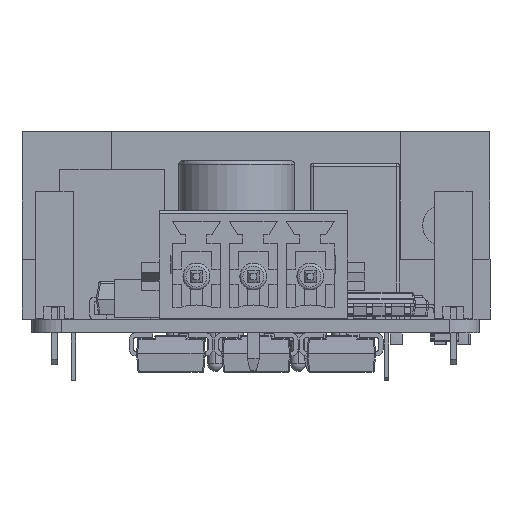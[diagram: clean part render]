
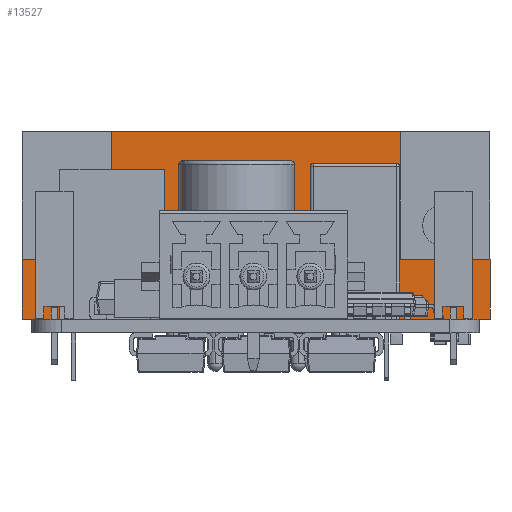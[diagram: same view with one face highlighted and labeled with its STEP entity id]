
A CAD part, left-side view. The second image highlights one B-rep face of the part: STEP entity #13527.
In plain terms, the highlighted planar face has unit normal (-1, 0, 0).
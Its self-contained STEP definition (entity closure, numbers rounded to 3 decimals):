
#12981 = VERTEX_POINT('',#12982);
#12982 = CARTESIAN_POINT('',(83.317,44.155,
    0.));
#12999 = VERTEX_POINT('',#13000);
#13000 = CARTESIAN_POINT('',(83.317,12.841,
    0.));
#13006 = EDGE_CURVE('',#12981,#12999,#13007,.T.);
#13007 = LINE('',#13008,#13009);
#13008 = CARTESIAN_POINT('',(83.317,44.155,
    0.));
#13009 = VECTOR('',#13010,1.);
#13010 = DIRECTION('',(0.,-1.,0.));
#13453 = EDGE_CURVE('',#13454,#12981,#13456,.T.);
#13454 = VERTEX_POINT('',#13455);
#13455 = CARTESIAN_POINT('',(83.317,44.155,
    4.));
#13456 = LINE('',#13457,#13458);
#13457 = CARTESIAN_POINT('',(83.317,44.155,
    12.55));
#13458 = VECTOR('',#13459,1.);
#13459 = DIRECTION('',(0.,0.,-1.));
#13484 = VERTEX_POINT('',#13485);
#13485 = CARTESIAN_POINT('',(83.317,38.155,
    12.55));
#13491 = EDGE_CURVE('',#13492,#13484,#13494,.T.);
#13492 = VERTEX_POINT('',#13493);
#13493 = CARTESIAN_POINT('',(83.317,18.841,
    12.55));
#13494 = LINE('',#13495,#13496);
#13495 = CARTESIAN_POINT('',(83.317,44.155,
    12.55));
#13496 = VECTOR('',#13497,1.);
#13497 = DIRECTION('',(0.,1.,0.));
#13527 = ADVANCED_FACE('',(#13528),#13569,.T.);
#13528 = FACE_BOUND('',#13529,.T.);
#13529 = EDGE_LOOP('',(#13530,#13531,#13539,#13545,#13546,#13547,#13555,
    #13563));
#13530 = ORIENTED_EDGE('',*,*,#13491,.T.);
#13531 = ORIENTED_EDGE('',*,*,#13532,.T.);
#13532 = EDGE_CURVE('',#13484,#13533,#13535,.T.);
#13533 = VERTEX_POINT('',#13534);
#13534 = CARTESIAN_POINT('',(83.317,38.155,
    4.));
#13535 = LINE('',#13536,#13537);
#13536 = CARTESIAN_POINT('',(83.317,38.155,
    0.));
#13537 = VECTOR('',#13538,1.);
#13538 = DIRECTION('',(0.,0.,-1.));
#13539 = ORIENTED_EDGE('',*,*,#13540,.F.);
#13540 = EDGE_CURVE('',#13454,#13533,#13541,.T.);
#13541 = LINE('',#13542,#13543);
#13542 = CARTESIAN_POINT('',(83.317,44.155,
    4.));
#13543 = VECTOR('',#13544,1.);
#13544 = DIRECTION('',(0.,-1.,0.));
#13545 = ORIENTED_EDGE('',*,*,#13453,.T.);
#13546 = ORIENTED_EDGE('',*,*,#13006,.T.);
#13547 = ORIENTED_EDGE('',*,*,#13548,.T.);
#13548 = EDGE_CURVE('',#12999,#13549,#13551,.T.);
#13549 = VERTEX_POINT('',#13550);
#13550 = CARTESIAN_POINT('',(83.317,12.841,
    4.));
#13551 = LINE('',#13552,#13553);
#13552 = CARTESIAN_POINT('',(83.317,12.841,
    12.55));
#13553 = VECTOR('',#13554,1.);
#13554 = DIRECTION('',(0.,0.,1.));
#13555 = ORIENTED_EDGE('',*,*,#13556,.F.);
#13556 = EDGE_CURVE('',#13557,#13549,#13559,.T.);
#13557 = VERTEX_POINT('',#13558);
#13558 = CARTESIAN_POINT('',(83.317,18.841,
    4.));
#13559 = LINE('',#13560,#13561);
#13560 = CARTESIAN_POINT('',(83.317,44.155,
    4.));
#13561 = VECTOR('',#13562,1.);
#13562 = DIRECTION('',(0.,-1.,0.));
#13563 = ORIENTED_EDGE('',*,*,#13564,.F.);
#13564 = EDGE_CURVE('',#13492,#13557,#13565,.T.);
#13565 = LINE('',#13566,#13567);
#13566 = CARTESIAN_POINT('',(83.317,18.841,
    0.));
#13567 = VECTOR('',#13568,1.);
#13568 = DIRECTION('',(0.,0.,-1.));
#13569 = PLANE('',#13570);
#13570 = AXIS2_PLACEMENT_3D('',#13571,#13572,#13573);
#13571 = CARTESIAN_POINT('',(83.317,44.155,
    0.));
#13572 = DIRECTION('',(-1.,0.,0.));
#13573 = DIRECTION('',(0.,-1.,0.));
